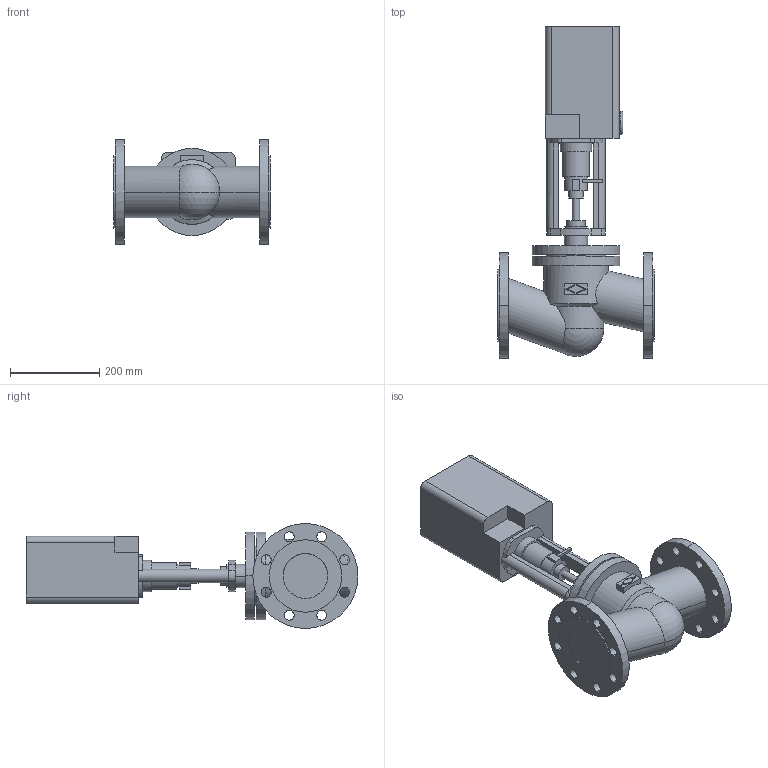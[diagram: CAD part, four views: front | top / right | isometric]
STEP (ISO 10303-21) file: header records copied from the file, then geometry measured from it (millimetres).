
FILE_DESCRIPTION(('OneSpaceDesigner STEP Export'),'2;1');
FILE_NAME('c000001182.stp','2005-02-16T12:08:27',(''),(''),'OneSpace Designer STEP processor (Jan. 2003) for AP203(Solid Model)','OneSpace Designer 12.01D 09-Jul-2004 (C) CoCreate Software GmbH','');
FILE_SCHEMA(('CONFIG_CONTROL_DESIGN'));
Length unit declared in the file: millimetre
Products named in the file (2): 1; 2
Bounding box: 350 x 742.5 x 235 mm (x, y, z)
Volume: 14621773.5 mm3; surface area: 730842.4 mm2
Topology: 2 solids, 2 shells, 178 faces, 454 edges, 301 vertices
Faces by surface type: cylinder 94, plane 78, sphere 2, cone 2, torus 2
Entity records: 5363 total; most frequent: CARTESIAN_POINT 1117, ORIENTED_EDGE 904, DIRECTION 762, EDGE_CURVE 452, VERTEX_POINT 301, AXIS2_PLACEMENT_3D 267, EDGE_LOOP 233, VECTOR 228
